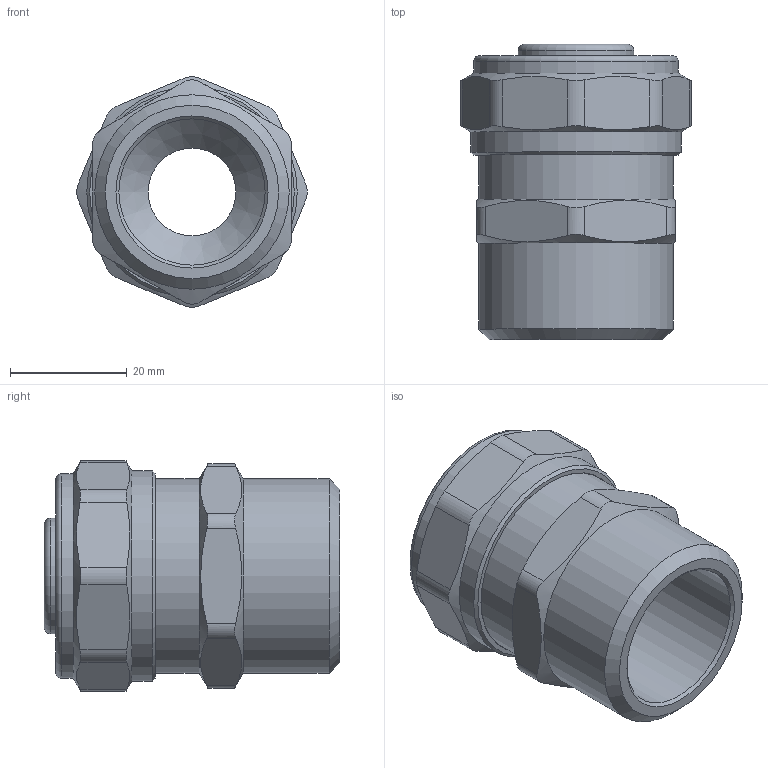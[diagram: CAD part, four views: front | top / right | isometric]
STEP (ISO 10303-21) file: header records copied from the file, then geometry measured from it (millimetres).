
FILE_DESCRIPTION(('STEP AP203'), '1');
FILE_NAME('VTm.301.N.002606', '', ('UNSPECIFIED'), ('UNSPECIFIED'), 'C3D Converter', 'C3D Toolkit', '');
FILE_SCHEMA(('CONFIG_CONTROL_DESIGN'));
Length unit declared in the file: millimetre
Products named in the file (1): ВР.302634.054.000 СБ
Bounding box: 39.39 x 50.5 x 39.39 mm (x, y, z)
Volume: 25020.8 mm3; surface area: 15821.7 mm2
Topology: 1 solids, 1 shells, 314 faces, 846 edges, 555 vertices
Faces by surface type: extrusion 123, plane 102, cylinder 43, torus 29, cone 17
Full cylindrical faces by diameter (mm): 15 x1, 17.4 x4, 19.8 x5, 20 x1, 25 x1, 26.2 x1, 26.7 x1, 30.292 x1, 33.249 x2, 35 x1, 36 x1
Entity records: 12318 total; most frequent: CARTESIAN_POINT 5245, ORIENTED_EDGE 1598, DIRECTION 1033, EDGE_CURVE 799, VERTEX_POINT 555, B_SPLINE_CURVE_WITH_KNOTS 471, VECTOR 459, EDGE_LOOP 384
